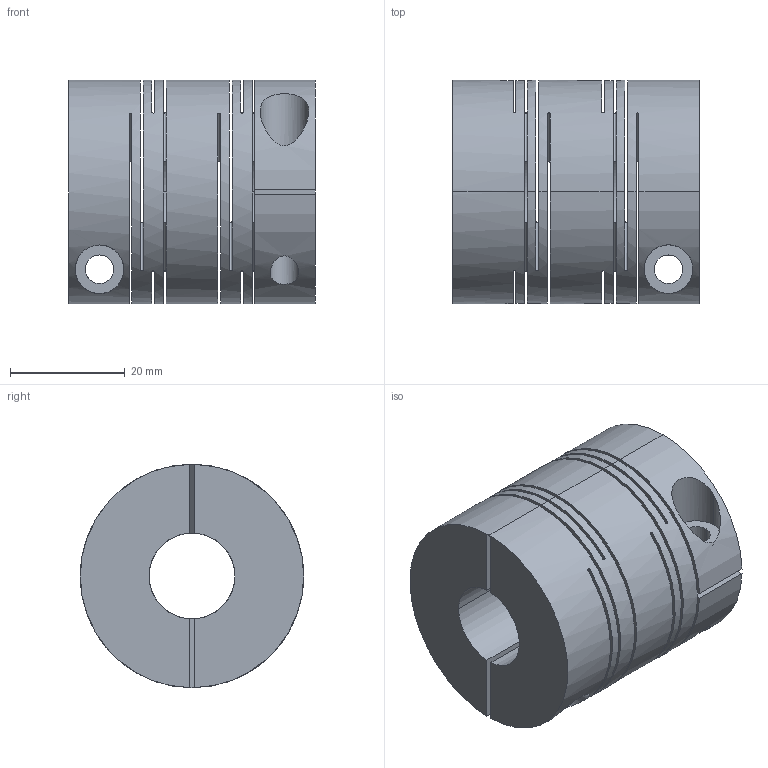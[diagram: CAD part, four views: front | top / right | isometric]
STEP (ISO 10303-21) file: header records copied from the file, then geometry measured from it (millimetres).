
FILE_DESCRIPTION(('Unknown'),'2;1');
FILE_NAME('','Unknown',('Unknown'),('Unknown'),'','Unknown','');
FILE_SCHEMA(('CONFIG_CONTROL_DESIGN'));
Length unit declared in the file: millimetre
Bounding box: 43 x 39 x 39 mm (x, y, z)
Volume: 38830.4 mm3; surface area: 22473.7 mm2
Topology: 1 solids, 1 shells, 80 faces, 267 edges, 177 vertices
Faces by surface type: cylinder 42, plane 38
Entity records: 5566 total; most frequent: CARTESIAN_POINT 3073, ORIENTED_EDGE 534, DIRECTION 506, EDGE_CURVE 267, AXIS2_PLACEMENT_3D 198, VERTEX_POINT 177, CIRCLE 114, LINE 110
